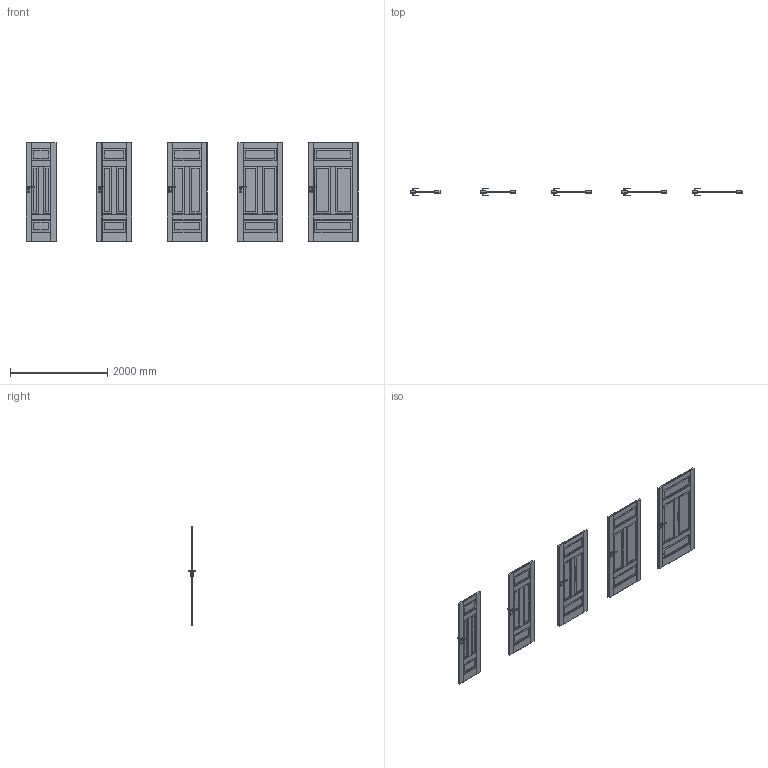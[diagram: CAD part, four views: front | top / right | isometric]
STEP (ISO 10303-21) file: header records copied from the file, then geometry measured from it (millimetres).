
FILE_DESCRIPTION(/* description */ (''),/* implementation_level */ '2;1');
FILE_NAME(/* name */ '049808_A_2-Skrzydło Harmony model B_ polska norma _PN__ bezprzylgowe..stp',/* time_stamp */ '2024-08-21T09:30:31+02:00',/* author */ (''),/* organization */ (''),/* preprocessor_version */ 'ST-DEVELOPER v16',/* originating_system */ 'SIEMENS PLM Software NX 11.0',/* authorisation */ '');
FILE_SCHEMA (('AUTOMOTIVE_DESIGN { 1 0 10303 214 3 1 1 1 }'));
Products named in the file (1): bkni2BD4327Fk20t
Bounding box: 6818 x 153.13 x 2017.01 mm (x, y, z)
Volume: 214062519.4 mm3; surface area: 18997222.5 mm2
Topology: 25 solids, 30 shells, 2200 faces, 5525 edges, 3330 vertices
Faces by surface type: plane 1190, cylinder 710, bspline 160, sphere 140
Entity records: 70073 total; most frequent: CARTESIAN_POINT 18416, ORIENTED_EDGE 10770, DIRECTION 10587, EDGE_CURVE 5385, LINE 3545, VECTOR 3545, AXIS2_PLACEMENT_3D 3521, VERTEX_POINT 3330
